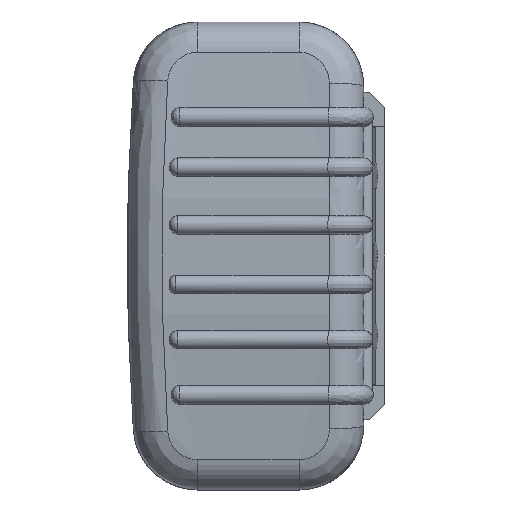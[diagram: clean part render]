
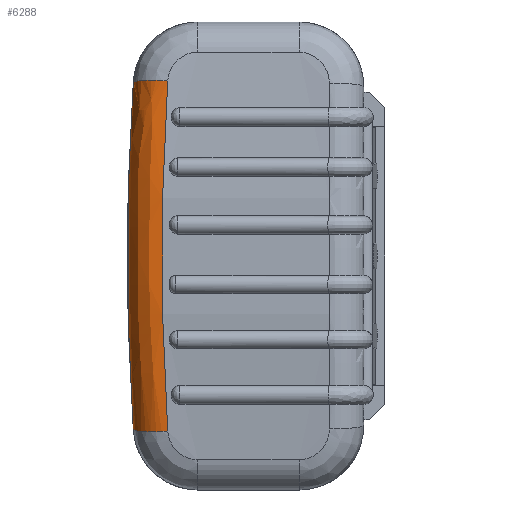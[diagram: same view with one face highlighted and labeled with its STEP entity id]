
A CAD part, left-side view. The second image highlights one B-rep face of the part: STEP entity #6288.
In plain terms, the highlighted free-form (B-spline) face has degree [3, 2] with [6, 3] control points.
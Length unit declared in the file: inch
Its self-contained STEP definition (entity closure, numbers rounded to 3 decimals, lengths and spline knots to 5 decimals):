
#1061 = DIRECTION ( 'NONE',  ( 0.994, 0., 0.106 ) ) ;
#1085 = FACE_OUTER_BOUND ( 'NONE', #23658, .T. ) ;
#1107 = CARTESIAN_POINT ( 'NONE',  ( 3.48445, 1.78921, 1.59639 ) ) ;
#1266 = CARTESIAN_POINT ( 'NONE',  ( 3.54135, 1.82417, 1.06426 ) ) ;
#1269 = EDGE_CURVE ( 'NONE', #36757, #40529, #34747, .T. ) ;
#1358 =( BOUNDED_SURFACE ( )  B_SPLINE_SURFACE ( 3, 2, ( 
 ( #20107, #19952, #23257 ),
 ( #4320, #26444, #7502 ),
 ( #29623, #10660, #32771 ),
 ( #13854, #35959, #17039 ),
 ( #39115, #20244, #1266 ),
 ( #23387, #4450, #26594 ) ),
 .UNSPECIFIED., .F., .F., .F. ) 
 B_SPLINE_SURFACE_WITH_KNOTS ( ( 4, 2, 4 ),
 ( 3, 3 ),
 ( 0., 0.0397, 0.0794 ),
 ( 0., 1. ),
 .UNSPECIFIED. ) 
 GEOMETRIC_REPRESENTATION_ITEM ( )  RATIONAL_B_SPLINE_SURFACE ( (
 ( 1., 0.71, 1.),
 ( 1., 0.708, 1.),
 ( 1., 0.707, 1.),
 ( 1., 0.707, 1.),
 ( 1., 0.708, 1.),
 ( 1., 0.71, 1.) ) ) 
 REPRESENTATION_ITEM ( '' )  SURFACE ( )  );
#1615 = CARTESIAN_POINT ( 'NONE',  ( 3.59776, 1.85903, 0. ) ) ;
#2276 = CARTESIAN_POINT ( 'NONE',  ( 3.17128, 2.10346, -1.584 ) ) ;
#4320 = CARTESIAN_POINT ( 'NONE',  ( 3.22698, 2.1389, -1.056 ) ) ;
#4450 = CARTESIAN_POINT ( 'NONE',  ( 3.48224, 2.10124, 1.6171 ) ) ;
#6288 = ADVANCED_FACE ( 'NONE', ( #1085 ), #1358, .T. ) ;
#7502 = CARTESIAN_POINT ( 'NONE',  ( 3.54135, 1.82417, -1.06426 ) ) ;
#7930 = CARTESIAN_POINT ( 'NONE',  ( 3.48445, 1.78921, -1.59639 ) ) ;
#9076 = CIRCLE ( 'NONE', #12530, 0.31496 ) ;
#9643 = VERTEX_POINT ( 'NONE', #29454 ) ;
#10660 = CARTESIAN_POINT ( 'NONE',  ( 3.56955, 2.15656, -0.53916 ) ) ;
#11142 = CARTESIAN_POINT ( 'NONE',  ( 3.48445, 1.78921, -1.59639 ) ) ;
#12530 = AXIS2_PLACEMENT_3D ( 'NONE', #38938, #20045, #1061 ) ;
#13451 = CIRCLE ( 'NONE', #13635, 0.31496 ) ;
#13635 = AXIS2_PLACEMENT_3D ( 'NONE', #15191, #37282, #18404 ) ;
#13854 = CARTESIAN_POINT ( 'NONE',  ( 3.25459, 2.15656, 0.528 ) ) ;
#14328 = CARTESIAN_POINT ( 'NONE',  ( 3.54135, 1.82418, 1.06426 ) ) ;
#14871 = CARTESIAN_POINT ( 'NONE',  ( 3.22698, 2.1389, 1.056 ) ) ;
#15174 = ORIENTED_EDGE ( 'NONE', *, *, #31937, .F. ) ;
#15191 = CARTESIAN_POINT ( 'NONE',  ( 3.17128, 1.78921, -1.56291 ) ) ;
#17039 = CARTESIAN_POINT ( 'NONE',  ( 3.56955, 1.8416, 0.53213 ) ) ;
#18007 = EDGE_CURVE ( 'NONE', #40529, #26893, #9076, .T. ) ;
#18404 = DIRECTION ( 'NONE',  ( 0.994, 0., -0.106 ) ) ;
#18986 = ORIENTED_EDGE ( 'NONE', *, *, #18007, .F. ) ;
#19194 = EDGE_CURVE ( 'NONE', #36757, #9643, #13451, .T. ) ;
#19952 = CARTESIAN_POINT ( 'NONE',  ( 3.48224, 2.10124, -1.6171 ) ) ;
#20045 = DIRECTION ( 'NONE',  ( -0.106, -0.067, 0.992 ) ) ;
#20107 = CARTESIAN_POINT ( 'NONE',  ( 3.17128, 2.10346, -1.584 ) ) ;
#20244 = CARTESIAN_POINT ( 'NONE',  ( 3.54073, 2.13823, 1.07705 ) ) ;
#20328 = B_SPLINE_CURVE_WITH_KNOTS ( 'NONE', 3,
 ( #36967, #14871, #40096, #21234, #2276 ),
 .UNSPECIFIED., .F., .F.,
 ( 4, 1, 4 ),
 ( 0., 0.04023, 0.08047 ),
 .UNSPECIFIED. ) ;
#21234 = CARTESIAN_POINT ( 'NONE',  ( 3.22698, 2.1389, -1.056 ) ) ;
#23257 = CARTESIAN_POINT ( 'NONE',  ( 3.48445, 1.78921, -1.59639 ) ) ;
#23387 = CARTESIAN_POINT ( 'NONE',  ( 3.17128, 2.10346, 1.584 ) ) ;
#23658 = EDGE_LOOP ( 'NONE', ( #38918, #15174, #18986, #38046 ) ) ;
#26444 = CARTESIAN_POINT ( 'NONE',  ( 3.54073, 2.13823, -1.07705 ) ) ;
#26594 = CARTESIAN_POINT ( 'NONE',  ( 3.48445, 1.78921, 1.59639 ) ) ;
#26893 = VERTEX_POINT ( 'NONE', #36809 ) ;
#29454 = CARTESIAN_POINT ( 'NONE',  ( 3.17128, 2.10346, -1.584 ) ) ;
#29623 = CARTESIAN_POINT ( 'NONE',  ( 3.25459, 2.15656, -0.528 ) ) ;
#30102 = CARTESIAN_POINT ( 'NONE',  ( 3.54135, 1.82418, -1.06426 ) ) ;
#31937 = EDGE_CURVE ( 'NONE', #26893, #9643, #20328, .T. ) ;
#32771 = CARTESIAN_POINT ( 'NONE',  ( 3.56955, 1.8416, -0.53213 ) ) ;
#34747 = B_SPLINE_CURVE_WITH_KNOTS ( 'NONE', 3,
 ( #11142, #30102, #1615, #14328, #36427 ),
 .UNSPECIFIED., .F., .F.,
 ( 4, 1, 4 ),
 ( 0., 0.04055, 0.0811 ),
 .UNSPECIFIED. ) ;
#35959 = CARTESIAN_POINT ( 'NONE',  ( 3.56955, 2.15656, 0.53916 ) ) ;
#36427 = CARTESIAN_POINT ( 'NONE',  ( 3.48445, 1.78921, 1.59639 ) ) ;
#36757 = VERTEX_POINT ( 'NONE', #7930 ) ;
#36809 = CARTESIAN_POINT ( 'NONE',  ( 3.17128, 2.10346, 1.584 ) ) ;
#36967 = CARTESIAN_POINT ( 'NONE',  ( 3.17128, 2.10346, 1.584 ) ) ;
#37282 = DIRECTION ( 'NONE',  ( 0.106, 0.067, 0.992 ) ) ;
#38046 = ORIENTED_EDGE ( 'NONE', *, *, #1269, .F. ) ;
#38918 = ORIENTED_EDGE ( 'NONE', *, *, #19194, .T. ) ;
#38938 = CARTESIAN_POINT ( 'NONE',  ( 3.17128, 1.78921, 1.56291 ) ) ;
#39115 = CARTESIAN_POINT ( 'NONE',  ( 3.22698, 2.1389, 1.056 ) ) ;
#40096 = CARTESIAN_POINT ( 'NONE',  ( 3.28221, 2.17422, 0. ) ) ;
#40529 = VERTEX_POINT ( 'NONE', #1107 ) ;
